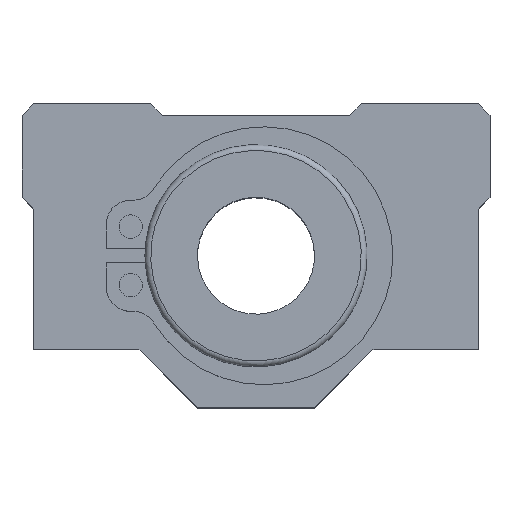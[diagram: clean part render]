
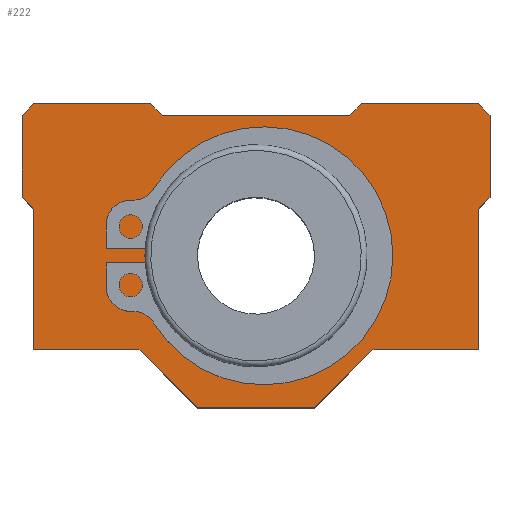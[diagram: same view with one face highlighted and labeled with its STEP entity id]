
A CAD part, top view. The second image highlights one B-rep face of the part: STEP entity #222.
In plain terms, the highlighted planar face has unit normal (0, 0, 1).
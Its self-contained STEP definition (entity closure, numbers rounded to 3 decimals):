
#222=ADVANCED_FACE('',(#298,#299),#300,.F.);
#298=FACE_OUTER_BOUND('',#477,.T.);
#299=FACE_BOUND('',#478,.T.);
#300=PLANE('',#479);
#477=EDGE_LOOP('',(#668,#669,#670,#671,#672,#673,#674,#675,#676,#677,#678,#679,#680,#681,#682,#683,#684,#685));
#478=EDGE_LOOP('',(#686));
#479=AXIS2_PLACEMENT_3D('',#687,#688,#689);
#668=ORIENTED_EDGE('',*,*,#1183,.F.);
#669=ORIENTED_EDGE('',*,*,#1176,.F.);
#670=ORIENTED_EDGE('',*,*,#1182,.F.);
#671=ORIENTED_EDGE('',*,*,#1184,.F.);
#672=ORIENTED_EDGE('',*,*,#1185,.F.);
#673=ORIENTED_EDGE('',*,*,#1186,.F.);
#674=ORIENTED_EDGE('',*,*,#1187,.F.);
#675=ORIENTED_EDGE('',*,*,#1188,.F.);
#676=ORIENTED_EDGE('',*,*,#1189,.F.);
#677=ORIENTED_EDGE('',*,*,#1190,.F.);
#678=ORIENTED_EDGE('',*,*,#1191,.F.);
#679=ORIENTED_EDGE('',*,*,#1192,.F.);
#680=ORIENTED_EDGE('',*,*,#1193,.F.);
#681=ORIENTED_EDGE('',*,*,#1194,.F.);
#682=ORIENTED_EDGE('',*,*,#1195,.F.);
#683=ORIENTED_EDGE('',*,*,#1196,.F.);
#684=ORIENTED_EDGE('',*,*,#1197,.F.);
#685=ORIENTED_EDGE('',*,*,#1198,.F.);
#686=ORIENTED_EDGE('',*,*,#1199,.F.);
#687=CARTESIAN_POINT('',(-14.0,18.0,9.75));
#688=DIRECTION('',(0.0,0.0,-1.0));
#689=DIRECTION('',(0.0,1.0,0.0));
#1176=EDGE_CURVE('',#1333,#1335,#1336,.T.);
#1182=EDGE_CURVE('',#1344,#1333,#1346,.T.);
#1183=EDGE_CURVE('',#1335,#1347,#1348,.T.);
#1184=EDGE_CURVE('',#1349,#1344,#1350,.T.);
#1185=EDGE_CURVE('',#1351,#1349,#1352,.T.);
#1186=EDGE_CURVE('',#1353,#1351,#1354,.T.);
#1187=EDGE_CURVE('',#1355,#1353,#1356,.T.);
#1188=EDGE_CURVE('',#1357,#1355,#1358,.T.);
#1189=EDGE_CURVE('',#1359,#1357,#1360,.T.);
#1190=EDGE_CURVE('',#1361,#1359,#1362,.T.);
#1191=EDGE_CURVE('',#1363,#1361,#1364,.T.);
#1192=EDGE_CURVE('',#1365,#1363,#1366,.T.);
#1193=EDGE_CURVE('',#1367,#1365,#1368,.T.);
#1194=EDGE_CURVE('',#1369,#1367,#1370,.T.);
#1195=EDGE_CURVE('',#1371,#1369,#1372,.T.);
#1196=EDGE_CURVE('',#1373,#1371,#1374,.T.);
#1197=EDGE_CURVE('',#1375,#1373,#1376,.T.);
#1198=EDGE_CURVE('',#1347,#1375,#1377,.T.);
#1199=EDGE_CURVE('',#1378,#1378,#1379,.F.);
#1333=VERTEX_POINT('',#1604);
#1335=VERTEX_POINT('',#1607);
#1336=LINE('',#1608,#1609);
#1344=VERTEX_POINT('',#1619);
#1346=LINE('',#1622,#1623);
#1347=VERTEX_POINT('',#1624);
#1348=LINE('',#1625,#1626);
#1349=VERTEX_POINT('',#1627);
#1350=LINE('',#1628,#1629);
#1351=VERTEX_POINT('',#1630);
#1352=LINE('',#1631,#1632);
#1353=VERTEX_POINT('',#1633);
#1354=LINE('',#1634,#1635);
#1355=VERTEX_POINT('',#1636);
#1356=LINE('',#1637,#1638);
#1357=VERTEX_POINT('',#1639);
#1358=LINE('',#1640,#1641);
#1359=VERTEX_POINT('',#1642);
#1360=LINE('',#1643,#1644);
#1361=VERTEX_POINT('',#1645);
#1362=LINE('',#1646,#1647);
#1363=VERTEX_POINT('',#1648);
#1364=LINE('',#1649,#1650);
#1365=VERTEX_POINT('',#1651);
#1366=LINE('',#1652,#1653);
#1367=VERTEX_POINT('',#1654);
#1368=LINE('',#1655,#1656);
#1369=VERTEX_POINT('',#1657);
#1370=LINE('',#1658,#1659);
#1371=VERTEX_POINT('',#1660);
#1372=LINE('',#1661,#1662);
#1373=VERTEX_POINT('',#1663);
#1374=LINE('',#1664,#1665);
#1375=VERTEX_POINT('',#1666);
#1376=LINE('',#1667,#1668);
#1377=LINE('',#1669,#1670);
#1378=VERTEX_POINT('',#1671);
#1379=CIRCLE('',#1672,9.5);
#1604=CARTESIAN_POINT('',(-20.0,5.0,9.75));
#1607=CARTESIAN_POINT('',(-20.0,12.0,9.75));
#1608=CARTESIAN_POINT('',(-20.0,5.0,9.75));
#1609=VECTOR('',#1974,1.0);
#1619=CARTESIAN_POINT('',(-19.0,4.0,9.75));
#1622=CARTESIAN_POINT('',(-19.0,4.0,9.75));
#1623=VECTOR('',#1984,1.0);
#1624=CARTESIAN_POINT('',(-19.0,13.0,9.75));
#1625=CARTESIAN_POINT('',(-20.0,12.0,9.75));
#1626=VECTOR('',#1985,1.0);
#1627=CARTESIAN_POINT('',(-19.0,-8.0,9.75));
#1628=CARTESIAN_POINT('',(-19.0,-8.0,9.75));
#1629=VECTOR('',#1986,1.0);
#1630=CARTESIAN_POINT('',(-10.0,-8.0,9.75));
#1631=CARTESIAN_POINT('',(-10.0,-8.0,9.75));
#1632=VECTOR('',#1987,1.0);
#1633=CARTESIAN_POINT('',(-5.0,-13.0,9.75));
#1634=CARTESIAN_POINT('',(-5.0,-13.0,9.75));
#1635=VECTOR('',#1988,1.0);
#1636=CARTESIAN_POINT('',(5.0,-13.0,9.75));
#1637=CARTESIAN_POINT('',(5.0,-13.0,9.75));
#1638=VECTOR('',#1989,1.0);
#1639=CARTESIAN_POINT('',(10.0,-8.0,9.75));
#1640=CARTESIAN_POINT('',(10.0,-8.0,9.75));
#1641=VECTOR('',#1990,1.0);
#1642=CARTESIAN_POINT('',(19.0,-8.0,9.75));
#1643=CARTESIAN_POINT('',(19.0,-8.0,9.75));
#1644=VECTOR('',#1991,1.0);
#1645=CARTESIAN_POINT('',(19.0,4.0,9.75));
#1646=CARTESIAN_POINT('',(19.0,4.0,9.75));
#1647=VECTOR('',#1992,1.0);
#1648=CARTESIAN_POINT('',(20.0,5.0,9.75));
#1649=CARTESIAN_POINT('',(20.0,5.0,9.75));
#1650=VECTOR('',#1993,1.0);
#1651=CARTESIAN_POINT('',(20.0,12.0,9.75));
#1652=CARTESIAN_POINT('',(20.0,12.0,9.75));
#1653=VECTOR('',#1994,1.0);
#1654=CARTESIAN_POINT('',(19.0,13.0,9.75));
#1655=CARTESIAN_POINT('',(19.0,13.0,9.75));
#1656=VECTOR('',#1995,1.0);
#1657=CARTESIAN_POINT('',(9.0,13.0,9.75));
#1658=CARTESIAN_POINT('',(9.0,13.0,9.75));
#1659=VECTOR('',#1996,1.0);
#1660=CARTESIAN_POINT('',(8.0,12.0,9.75));
#1661=CARTESIAN_POINT('',(8.0,12.0,9.75));
#1662=VECTOR('',#1997,1.0);
#1663=CARTESIAN_POINT('',(-8.0,12.0,9.75));
#1664=CARTESIAN_POINT('',(-8.0,12.0,9.75));
#1665=VECTOR('',#1998,1.0);
#1666=CARTESIAN_POINT('',(-9.0,13.0,9.75));
#1667=CARTESIAN_POINT('',(-9.0,13.0,9.75));
#1668=VECTOR('',#1999,1.0);
#1669=CARTESIAN_POINT('',(-19.0,13.0,9.75));
#1670=VECTOR('',#2000,1.0);
#1671=CARTESIAN_POINT('',(-9.5,0.,9.75));
#1672=AXIS2_PLACEMENT_3D('',#2001,#2002,#2003);
#1974=DIRECTION('',(0.0,1.0,0.0));
#1984=DIRECTION('',(-0.707,0.707,0.0));
#1985=DIRECTION('',(0.707,0.707,0.0));
#1986=DIRECTION('',(0.0,1.0,0.0));
#1987=DIRECTION('',(-1.0,0.0,0.0));
#1988=DIRECTION('',(-0.707,0.707,0.0));
#1989=DIRECTION('',(-1.0,0.0,0.0));
#1990=DIRECTION('',(-0.707,-0.707,0.0));
#1991=DIRECTION('',(-1.0,0.,0.0));
#1992=DIRECTION('',(0.0,-1.0,0.0));
#1993=DIRECTION('',(-0.707,-0.707,0.0));
#1994=DIRECTION('',(0.0,-1.0,0.0));
#1995=DIRECTION('',(0.707,-0.707,0.0));
#1996=DIRECTION('',(1.0,0.,0.0));
#1997=DIRECTION('',(0.707,0.707,0.0));
#1998=DIRECTION('',(1.0,0.0,0.0));
#1999=DIRECTION('',(0.707,-0.707,0.0));
#2000=DIRECTION('',(1.0,0.0,0.0));
#2001=CARTESIAN_POINT('',(0.0,0.0,9.75));
#2002=DIRECTION('',(0.0,0.0,-1.0));
#2003=DIRECTION('',(-1.0,0.0,0.0));
